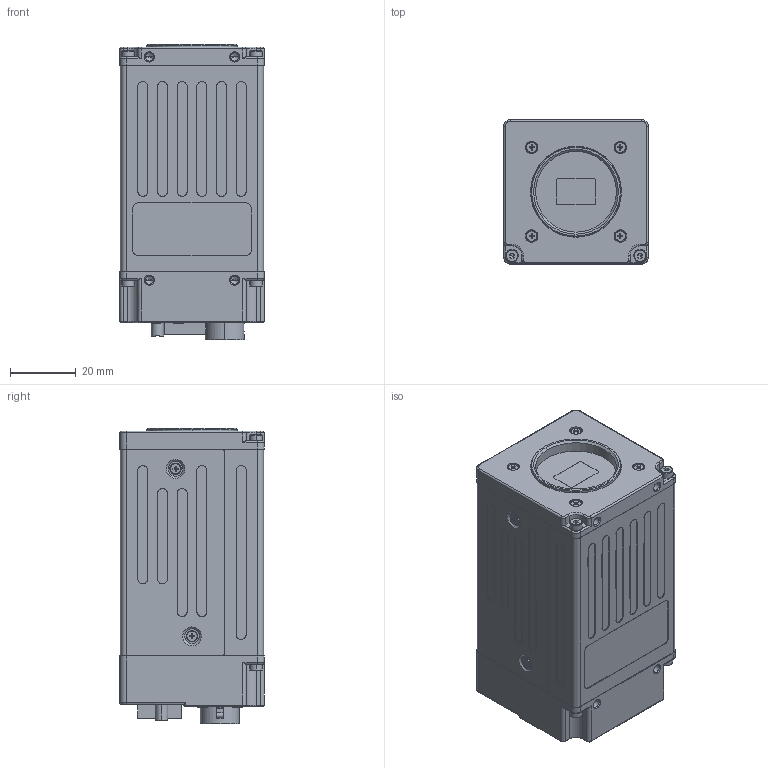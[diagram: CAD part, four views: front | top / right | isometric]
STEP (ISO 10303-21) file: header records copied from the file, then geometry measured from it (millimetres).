
FILE_DESCRIPTION((''),'2;1');
FILE_NAME('AP-3200T_GE_MOCK_2017_11_30','2017-11-30T',('aso'),(''),'CREO PARAMETRIC BY PTC INC, 2016260','CREO PARAMETRIC BY PTC INC, 2016260','');
FILE_SCHEMA(('CONFIG_CONTROL_DESIGN'));
Products named in the file (1): AP-3200T_GE_MOCK_2017_11_30
Bounding box: 44 x 44 x 89.9 mm (x, y, z)
Surface area: 41661 mm2
Topology: 32 solids, 33 shells, 2517 faces, 6940 edges, 4443 vertices
Faces by surface type: plane 1293, cylinder 635, cone 246, extrusion 159, torus 107, sphere 74, bspline 3
Entity records: 82146 total; most frequent: CARTESIAN_POINT 18563, ORIENTED_EDGE 13293, DIRECTION 12874, EDGE_CURVE 6821, VERTEX_POINT 4441, AXIS2_PLACEMENT_3D 4375, VECTOR 4124, LINE 3965
